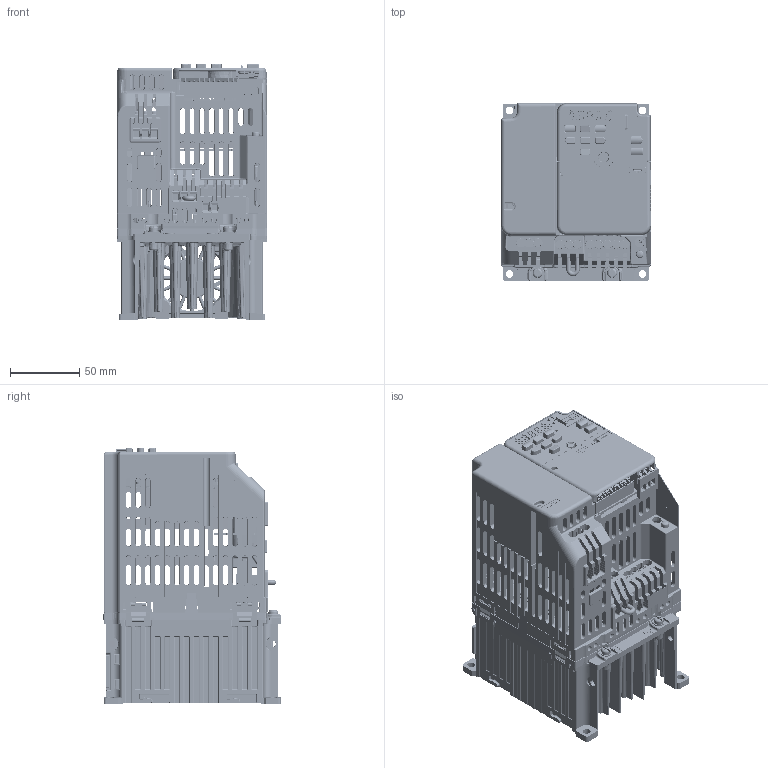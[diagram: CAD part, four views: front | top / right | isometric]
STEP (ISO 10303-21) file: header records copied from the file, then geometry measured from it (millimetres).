
FILE_DESCRIPTION((''),'2;1');
FILE_NAME('GA500_EMC_FRAME_V2-B_ASM','2019-03-11T',('anm'),('YASKAWA ELECTRIC CORCORATION'),'PRO/ENGINEER BY PARAMETRIC TECHNOLOGY CORPORATION, 2015440','PRO/ENGINEER BY PARAMETRIC TECHNOLOGY CORPORATION, 2015440','');
FILE_SCHEMA(('CONFIG_CONTROL_DESIGN'));
Products named in the file (58): LAY_KIPR-GA50_Q_2012_1_1_1_1_1; 400-104-195_1_1_1_1_1; SCAT41279-1_1_1_1_1_1; 400-104-226_1_1_1_1_1; 05020VE24XBA-XXX_1_1_1_1_1; 400-107-684_1_1_1_1_1; PRT0001_1_1; MKDS5NHV_5-ZB-6P35_1_1_1_1_1; KTP761913_6PCB_ASM_1_ASM_1_ASM__ASM; PRT0002_1_1; MKDS5NHV_3-ZB-6P35_1_1_1_1_1; KTP761913_5PCB_ASM_1_ASM_1_ASM__ASM; 400-107-664_ASM_1_ASM_1_ASM_1_A; 400-104-308-01B-1_AF0_1_1_1_1_1; KTX731433_ASM_1_ASM_1_ASM_1_ASM_ASM; NP-3570W-2_1_1_1_1_1; NP-3570W_ASM_1_ASM_1_ASM_1_ASM__ASM; 400-104-405_1_1_1_1_1; HSR-M3-5P3_1_1_1_1_1; 400-104-405_ASM_1_ASM_1_ASM_1_A_ASM; MS15_M3X20_1_1_1_1_1; 400-104-023-01F-5_1PCB_1_1_1_1_; 95003-2884_1_1_1_1_1; B12B-PASK-1_1_1_1_1_1; 1734753-1_AF1_1_1_1_1_1; DHB-PD20-S131N-4P9_AF1_1_1_1_1_; KARI_SPTA1_9-3P5_AF0_1_1_1_1_1; KARI_SPTA1_8-3P5_AF0_1_1_1_1_1; SPTA1_11-3P5_AF0_1_1_1_1_1; SPTA1_3-5P0_AF0_1_1_1_1_1; ASM0001_ASM_1_ASM_1_ASM; F354371_2_1_1_1_1; F354373_2_1_1_1_1; F354374_2_1_1_1_1; F354372_2_1_1_1_1; V-GEM_PWB2_2_1_1_1_1; 55265-0811_AF0_2_1_1_1_1; SM10B-SURS-TF_1_2_1_1_1_1; ASM0003_ASM_1_ASM_1_ASM; ASM0002_ASM_1_ASM_1_ASM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
Assembly tree (59 placements, depth 9):
  GA500_EMC_FRAME_V2-B_ASM
    GA500_EMC_FRAME_V2-B_ASM_1_ASM
      GA500_EMC_FRAME_V2-B_ASM_1_ASM__ASM
        Q2V_FRAME_V2-B_ASM_1_ASM-603035_ASM
          Q2V_FRAME_V2-B_ASM_1_ASM-603002_ASM
            00_CIPR-GA50Z2012XXXX_ASM_4_ASM_ASM
              LAY_KIPR-GA50_Q_2012_1_1_1_1_1
              400-104-195_1_1_1_1_1
              SCAT41279-1_1_1_1_1_1  x2
              400-104-226_1_1_1_1_1
              05020VE24XBA-XXX_1_1_1_1_1
              400-107-684_1_1_1_1_1
              KTP761913_6PCB_ASM_1_ASM_1_ASM__ASM
                PRT0001_1_1
                MKDS5NHV_5-ZB-6P35_1_1_1_1_1
              KTP761913_5PCB_ASM_1_ASM_1_ASM__ASM
                PRT0002_1_1
                MKDS5NHV_3-ZB-6P35_1_1_1_1_1
              400-107-664_ASM_1_ASM_1_ASM_1_A
              KTX731433_ASM_1_ASM_1_ASM_1_ASM_ASM
                400-104-308-01B-1_AF0_1_1_1_1_1
                MKDS5NHV_3-ZB-6P35_1_1_1_1_1
              NP-3570W_ASM_1_ASM_1_ASM_1_ASM__ASM
                NP-3570W-2_1_1_1_1_1
              400-104-405_ASM_1_ASM_1_ASM_1_A_ASM
                400-104-405_1_1_1_1_1
                HSR-M3-5P3_1_1_1_1_1
              MS15_M3X20_1_1_1_1_1
              ASM0001_ASM_1_ASM_1_ASM
                400-104-023-01F-5_1PCB_1_1_1_1_
                95003-2884_1_1_1_1_1
                B12B-PASK-1_1_1_1_1_1
                1734753-1_AF1_1_1_1_1_1
                DHB-PD20-S131N-4P9_AF1_1_1_1_1_
                KARI_SPTA1_9-3P5_AF0_1_1_1_1_1
                KARI_SPTA1_8-3P5_AF0_1_1_1_1_1
                SPTA1_11-3P5_AF0_1_1_1_1_1
                SPTA1_3-5P0_AF0_1_1_1_1_1
              ASM0002_ASM_1_ASM_1_ASM
                F354371_2_1_1_1_1
                F354373_2_1_1_1_1
                F354374_2_1_1_1_1
                F354372_2_1_1_1_1
                ASM0003_ASM_1_ASM_1_ASM
                  V-GEM_PWB2_2_1_1_1_1
                  55265-0811_AF0_2_1_1_1_1
                  SM10B-SURS-TF_1_2_1_1_1_1
              400-104-186_1_1_1_1_1
              PRT0003_1_1
              400-115-297-002_1_1_1_1_1
              400-108-079_1_1_1_1_1
              400-104-204_1_1_1_1_1_1
              400-104-204_2_1_1_1_1_1
              400-104-204_3_1_1_1_1_1
              400-118-612_6_1_1_1_1_1
              400-118-612_7_1_1_1_1_1
              400-118-612_8_1_1_1_1_1
              400-104-204_6_1_1_1_1_1
              400-104-206_2_1_1_1_1_1
Bounding box: 108.58 x 128.29 x 185.25 mm (x, y, z)
Volume: 532812.3 mm3; surface area: 413363.5 mm2
Topology: 42 solids, 50 shells, 15560 faces, 43485 edges, 28022 vertices
Faces by surface type: plane 9335, cylinder 3384, cone 1116, bspline 937, torus 481, sphere 299, extrusion 8
Entity records: 544862 total; most frequent: CARTESIAN_POINT 158802, ORIENTED_EDGE 84967, DIRECTION 73428, EDGE_CURVE 42504, VECTOR 28940, LINE 28932, VERTEX_POINT 27573, AXIS2_PLACEMENT_3D 22244
